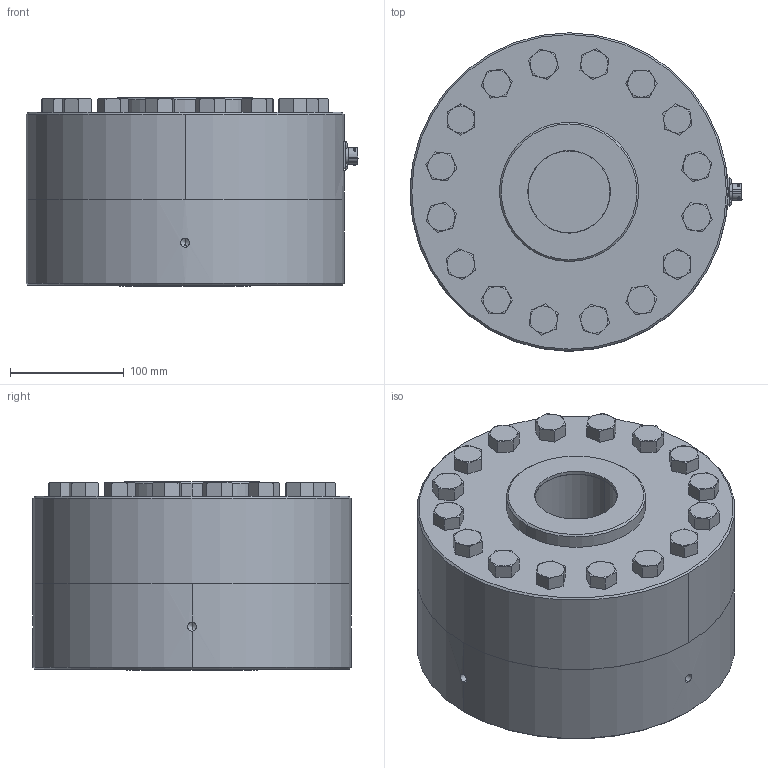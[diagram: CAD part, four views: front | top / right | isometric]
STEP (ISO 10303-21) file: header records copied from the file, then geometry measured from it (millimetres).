
FILE_DESCRIPTION (( 'STEP AP203' ), '1' );
FILE_NAME ('Interface 1140-900KN-B.STEP', '2011-06-10T18:32:18', ( ' ' ), ( '' ), 'SwSTEP 2.0', 'SolidWorks 2002349', '' );
FILE_SCHEMA (( 'CONFIG_CONTROL_DESIGN' ));
Length unit declared in the file: inch
Products named in the file (1): Interface 1140-900KN-B
Bounding box: 291.48 x 279.3 x 165.1 mm (x, y, z)
Volume: 8919768.2 mm3; surface area: 311664.7 mm2
Topology: 1 solids, 1 shells, 439 faces, 1029 edges, 633 vertices
Faces by surface type: plane 191, cone 143, cylinder 80, bspline 22, sphere 3
Entity records: 13830 total; most frequent: CARTESIAN_POINT 4330, ORIENTED_EDGE 2042, DIRECTION 1811, EDGE_CURVE 1021, AXIS2_PLACEMENT_3D 704, VERTEX_POINT 633, EDGE_LOOP 488, ADVANCED_FACE 439
